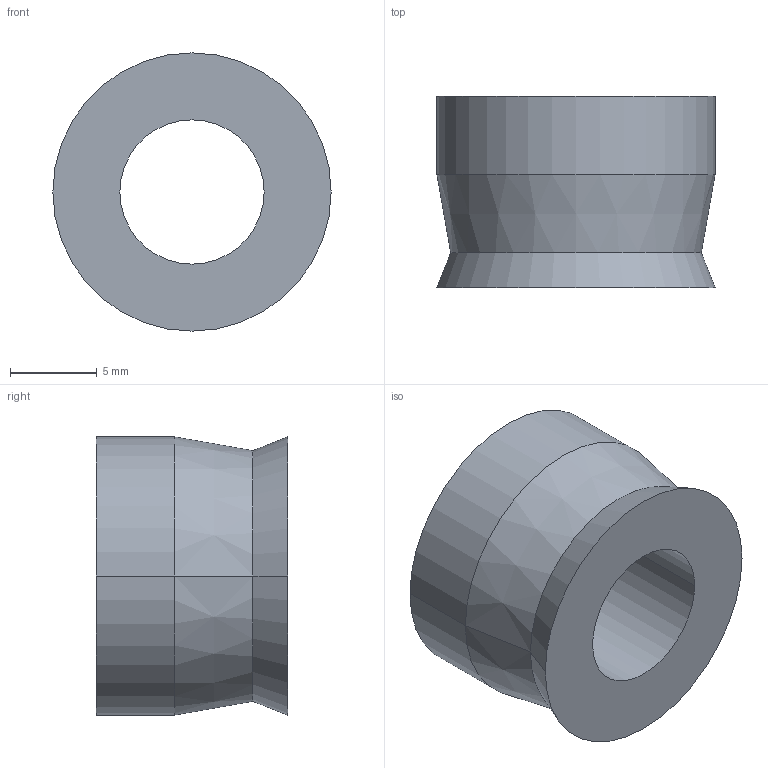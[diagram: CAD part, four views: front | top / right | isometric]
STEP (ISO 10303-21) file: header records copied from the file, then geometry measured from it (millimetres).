
FILE_DESCRIPTION((''),'2;1');
FILE_NAME('UMLENKROLLE','2016-11-09T',('Tim'),(''),'CREO PARAMETRIC BY PTC INC, 2015380','CREO PARAMETRIC BY PTC INC, 2015380','');
FILE_SCHEMA(('CONFIG_CONTROL_DESIGN'));
Length unit declared in the file: millimetre
Products named in the file (1): UMLENKROLLE
Bounding box: 16 x 11 x 16 mm (x, y, z)
Volume: 1491.2 mm3; surface area: 1128 mm2
Topology: 1 solids, 1 shells, 10 faces, 20 edges, 12 vertices
Faces by surface type: cone 4, cylinder 4, plane 2
Entity records: 306 total; most frequent: DIRECTION 52, CARTESIAN_POINT 42, ORIENTED_EDGE 40, AXIS2_PLACEMENT_3D 22, EDGE_CURVE 20, VERTEX_POINT 12, EDGE_LOOP 12, CIRCLE 12
